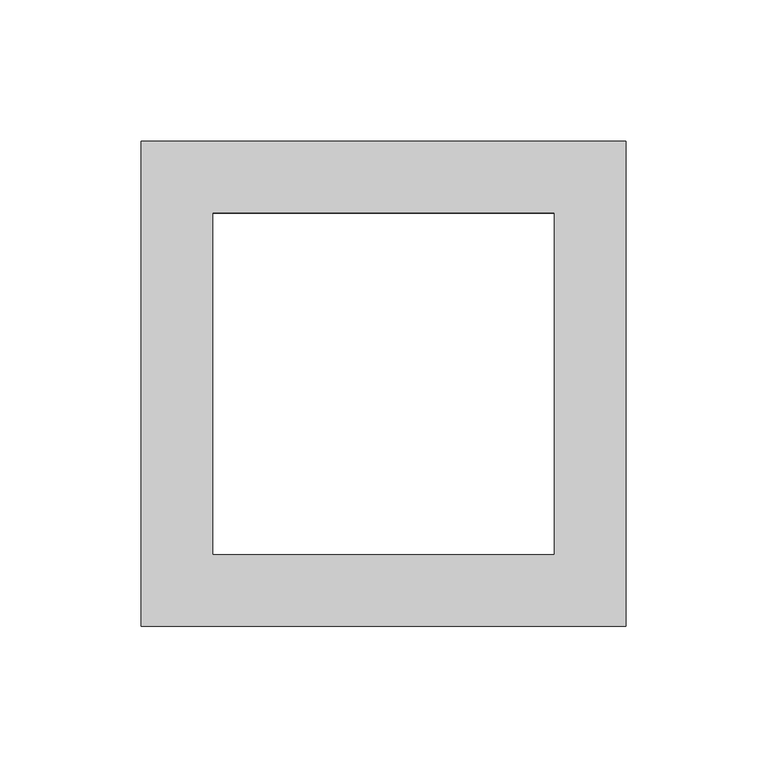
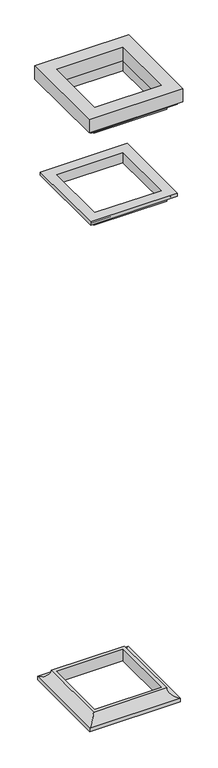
"""IFC4 building model written with IfcOpenShell, lengths in millimetres: railing geometry, Deco Type."""

from ifc_helpers import new_model, si_unit, frame, origin, place, context, project, spatial, polyline, ellipse_curve, outline, extrude, faceted_brep, source, transform, mapped, element, save
from ifc_brep_helpers import plane_surface, revolved_surface, advanced_brep


def railing_55643983(model_context):
    return source(origin(), model_context, "Body", "SolidModel", [
        extrude(outline(polyline([(-11295.3875398, -7864.1661799), (-11123.9375398, -7864.1661799), (-11123.9375398, -8035.6161799), (-11295.3875398, -8035.6161799), (-11295.3875398, -7864.1661799)]), holes=[polyline([(-11269.9875398, -8010.2161799), (-11149.3375398, -8010.2161799), (-11149.3375398, -7889.5661799), (-11269.9875398, -7889.5661799), (-11269.9875398, -8010.2161799)])]), frame((0.0, 0.0, 1260.475), z_axis=(0.0, 0.0, 1.0), x_axis=(1.0, 0.0, 0.0)), (0.0, 0.0, 1.0), 25.4),
        advanced_brep(
        [(-11269.9875398, -7889.5661799, 101.6), (-11269.9875398, -7889.5661799, 123.825), (-11269.9875398, -8010.2161799, 123.825), (-11269.9875398, -8010.2161799, 101.6), (-11292.2125398, -7867.3411799, 107.95), (-11292.2125398, -7867.3411799, 101.6), (-11292.2125398, -8032.4411799, 101.6), (-11292.2125398, -8032.4411799, 107.95), (-11276.3375398, -7883.2161799, 123.825), (-11276.3375398, -8016.5661799, 123.825), (-11149.3375398, -8010.2161799, 123.825), (-11149.3375398, -8010.2161799, 101.6), (-11127.1125398, -8032.4411799, 101.6), (-11127.1125398, -8032.4411799, 107.95), (-11142.9875398, -8016.5661799, 123.825), (-11149.3375398, -7889.5661799, 123.825), (-11149.3375398, -7889.5661799, 101.6), (-11127.1125398, -7867.3411799, 101.6), (-11127.1125398, -7867.3411799, 107.95), (-11142.9875398, -7883.2161799, 123.825)],
        [
            (0, 1),
            (1, 2),
            (2, 3),
            (3, 0),
            (4, 5),
            (5, 6),
            (6, 7),
            (7, 4),
            (8, 4, ellipse_curve(frame((-11292.2125398, -7867.3411799, 123.825), z_axis=(0.7071067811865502, 0.7071067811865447, 0.0), x_axis=(0.7071067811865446, -0.7071067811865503, 0.0)), 22.4506403, 15.875)),
            (7, 9, ellipse_curve(frame((-11292.2125398, -8032.4411799, 123.825), z_axis=(0.7071067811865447, -0.7071067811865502, 0.0), x_axis=(-0.7071067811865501, -0.7071067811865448, 0.0)), 22.4506403, 15.875)),
            (9, 8),
            (2, 10),
            (10, 11),
            (11, 3),
            (6, 12),
            (12, 13),
            (13, 7),
            (13, 14, ellipse_curve(frame((-11127.1125398, -8032.4411799, 123.825), z_axis=(0.7071067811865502, 0.7071067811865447, 0.0), x_axis=(0.7071067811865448, -0.7071067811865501, 0.0)), 22.4506403, 15.875)),
            (14, 9),
            (10, 15),
            (15, 16),
            (16, 11),
            (12, 17),
            (17, 18),
            (18, 13),
            (18, 19, ellipse_curve(frame((-11127.1125398, -7867.3411799, 123.825), z_axis=(-0.7071067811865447, 0.7071067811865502, 0.0), x_axis=(0.7071067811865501, 0.7071067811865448, 0.0)), 22.4506403, 15.875)),
            (19, 14),
            (15, 1),
            (0, 16),
            (5, 17),
            (4, 18),
            (8, 19),
        ],
        [
            plane_surface(frame((-11269.9875398, -7889.5661799, 123.825), z_axis=(1.0, 0.0, 0.0), x_axis=(0.0, -1.0, 0.0))),
            plane_surface(frame((-11292.2125398, -7867.3411799, 101.6), z_axis=(-1.0, 0.0, 0.0), x_axis=(0.0, -1.0, 0.0))),
            revolved_surface(polyline([(-11276.3375398, -8048.31617989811, 123.825), (-11276.3375398, -7851.4661799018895, 123.825)]), (-11292.2125398, -7889.5661799, 123.825), (0.0, -1.0, 0.0)),
            plane_surface(frame((-11269.9875398, -8010.2161799, 123.825), z_axis=(0.0, 1.0, 0.0), x_axis=(1.0, 0.0, 0.0))),
            plane_surface(frame((-11292.2125398, -8032.4411799, 101.6), z_axis=(0.0, -1.0, 0.0), x_axis=(1.0, 0.0, 0.0))),
            revolved_surface(polyline([(-11111.23753980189, -8016.5661799, 123.825), (-11308.08753979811, -8016.5661799, 123.825)]), (-11269.9875398, -8032.4411799, 123.825), (1.0, 0.0, 0.0)),
            plane_surface(frame((-11149.3375398, -8010.2161799, 123.825), z_axis=(-1.0, 0.0, 0.0), x_axis=(0.0, 1.0, 0.0))),
            plane_surface(frame((-11127.1125398, -8032.4411799, 101.6), z_axis=(1.0, 0.0, 0.0), x_axis=(0.0, 1.0, 0.0))),
            revolved_surface(polyline([(-11142.9875398, -7851.4661799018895, 123.825), (-11142.9875398, -8048.31617989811, 123.825)]), (-11127.1125398, -8010.2161799, 123.825), (0.0, 1.0, 0.0)),
            plane_surface(frame((-11149.3375398, -7889.5661799, 123.825), z_axis=(0.0, -1.0, 0.0), x_axis=(-1.0, 0.0, 0.0))),
            plane_surface(frame((-11149.3375398, -7889.5661799, 101.6), z_axis=(0.0, 0.0, -1.0), x_axis=(-1.0, 0.0, 0.0))),
            plane_surface(frame((-11127.1125398, -7867.3411799, 101.6), z_axis=(0.0, 1.0, 0.0), x_axis=(-1.0, 0.0, 0.0))),
            revolved_surface(polyline([(-11308.08753979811, -7883.2161799, 123.825), (-11111.23753980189, -7883.2161799, 123.825)]), (-11149.3375398, -7867.3411799, 123.825), (-1.0, 0.0, 0.0)),
            plane_surface(frame((-11142.9875398, -7883.2161799, 123.825), z_axis=(0.0, 0.0, 1.0), x_axis=(-1.0, 0.0, 0.0))),
        ],
        [
            (0, [[1, 2, 3, 4]]),
            (1, [[5, 6, 7, 8]]),
            (2, [[9, -8, 10, 11]]),
            (3, [[-3, 12, 13, 14]]),
            (4, [[-7, 15, 16, 17]]),
            (5, [[-10, -17, 18, 19]]),
            (6, [[-13, 20, 21, 22]]),
            (7, [[-16, 23, 24, 25]]),
            (8, [[-18, -25, 26, 27]]),
            (9, [[-21, 28, -1, 29]]),
            (10, [[30, -23, -15, -6], [-14, -22, -29, -4]]),
            (11, [[-24, -30, -5, 31]]),
            (12, [[-26, -31, -9, 32]]),
            (13, [[-19, -27, -32, -11], [-28, -20, -12, -2]]),
        ],
    ),
        advanced_brep(
        [(-11269.9875398, -7889.5661799, 1063.625), (-11269.9875398, -7889.5661799, 1082.675), (-11269.9875398, -8010.2161799, 1082.675), (-11269.9875398, -8010.2161799, 1063.625), (-11289.0375398, -7870.5161799, 1076.325), (-11276.3375398, -7883.2161799, 1063.625), (-11276.3375398, -8016.5661799, 1063.625), (-11289.0375398, -8029.2661799, 1076.325), (-11289.0375398, -7870.5161799, 1082.675), (-11289.0375398, -8029.2661799, 1082.675), (-11149.3375398, -8010.2161799, 1082.675), (-11149.3375398, -8010.2161799, 1063.625), (-11142.9875398, -8016.5661799, 1063.625), (-11130.2875398, -8029.2661799, 1076.325), (-11130.2875398, -8029.2661799, 1082.675), (-11149.3375398, -7889.5661799, 1082.675), (-11149.3375398, -7889.5661799, 1063.625), (-11142.9875398, -7883.2161799, 1063.625), (-11130.2875398, -7870.5161799, 1076.325), (-11130.2875398, -7870.5161799, 1082.675)],
        [
            (0, 1),
            (1, 2),
            (2, 3),
            (3, 0),
            (4, 5, ellipse_curve(frame((-11289.0375398, -7870.5161799, 1063.625), z_axis=(0.7071067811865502, 0.7071067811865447, 0.0), x_axis=(0.7071067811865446, -0.7071067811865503, 0.0)), 17.9605122, 12.7)),
            (5, 6),
            (6, 7, ellipse_curve(frame((-11289.0375398, -8029.2661799, 1063.625), z_axis=(0.7071067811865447, -0.7071067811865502, 0.0), x_axis=(-0.7071067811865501, -0.7071067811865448, 0.0)), 17.9605122, 12.7)),
            (7, 4),
            (8, 4),
            (7, 9),
            (9, 8),
            (2, 10),
            (10, 11),
            (11, 3),
            (6, 12),
            (12, 13, ellipse_curve(frame((-11130.2875398, -8029.2661799, 1063.625), z_axis=(0.7071067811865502, 0.7071067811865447, 0.0), x_axis=(0.7071067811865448, -0.7071067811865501, 0.0)), 17.9605122, 12.7)),
            (13, 7),
            (13, 14),
            (14, 9),
            (10, 15),
            (15, 16),
            (16, 11),
            (12, 17),
            (17, 18, ellipse_curve(frame((-11130.2875398, -7870.5161799, 1063.625), z_axis=(-0.7071067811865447, 0.7071067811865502, 0.0), x_axis=(0.7071067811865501, 0.7071067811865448, 0.0)), 17.9605122, 12.7)),
            (18, 13),
            (18, 19),
            (19, 14),
            (19, 8),
            (1, 15),
            (0, 16),
            (5, 17),
            (4, 18),
        ],
        [
            plane_surface(frame((-11269.9875398, -7889.5661799, 1082.675), z_axis=(1.0, 0.0, 0.0), x_axis=(0.0, -1.0, 0.0))),
            revolved_surface(polyline([(-11276.337539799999, -8041.966179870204, 1063.625), (-11276.337539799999, -7857.816179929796, 1063.625)]), (-11289.0375398, -7889.5661799, 1063.625), (0.0, -1.0, 0.0)),
            plane_surface(frame((-11289.0375398, -7870.5161799, 1076.325), z_axis=(-1.0, 0.0, 0.0), x_axis=(0.0, -1.0, 0.0))),
            plane_surface(frame((-11269.9875398, -8010.2161799, 1082.675), z_axis=(0.0, 1.0, 0.0), x_axis=(1.0, 0.0, 0.0))),
            revolved_surface(polyline([(-11117.587539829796, -8016.5661799, 1063.625), (-11301.737539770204, -8016.5661799, 1063.625)]), (-11269.9875398, -8029.2661799, 1063.625), (1.0, 0.0, 0.0)),
            plane_surface(frame((-11289.0375398, -8029.2661799, 1076.325), z_axis=(0.0, -1.0, 0.0), x_axis=(1.0, 0.0, 0.0))),
            plane_surface(frame((-11149.3375398, -8010.2161799, 1082.675), z_axis=(-1.0, 0.0, 0.0), x_axis=(0.0, 1.0, 0.0))),
            revolved_surface(polyline([(-11142.9875398, -7857.816179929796, 1063.625), (-11142.9875398, -8041.966179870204, 1063.625)]), (-11130.2875398, -8010.2161799, 1063.625), (0.0, 1.0, 0.0)),
            plane_surface(frame((-11130.2875398, -8029.2661799, 1076.325), z_axis=(1.0, 0.0, 0.0), x_axis=(0.0, 1.0, 0.0))),
            plane_surface(frame((-11130.2875398, -7870.5161799, 1082.675), z_axis=(0.0, 0.0, 1.0), x_axis=(-1.0, 0.0, 0.0))),
            plane_surface(frame((-11149.3375398, -7889.5661799, 1082.675), z_axis=(0.0, -1.0, 0.0), x_axis=(-1.0, 0.0, 0.0))),
            plane_surface(frame((-11149.3375398, -7889.5661799, 1063.625), z_axis=(0.0, 0.0, -1.0), x_axis=(-1.0, 0.0, 0.0))),
            revolved_surface(polyline([(-11301.737539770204, -7883.2161799, 1063.625), (-11117.587539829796, -7883.2161799, 1063.625)]), (-11149.3375398, -7870.5161799, 1063.625), (-1.0, 0.0, 0.0)),
            plane_surface(frame((-11130.2875398, -7870.5161799, 1076.325), z_axis=(0.0, 1.0, 0.0), x_axis=(-1.0, 0.0, 0.0))),
        ],
        [
            (0, [[1, 2, 3, 4]]),
            (1, [[5, 6, 7, 8]]),
            (2, [[9, -8, 10, 11]]),
            (3, [[-3, 12, 13, 14]]),
            (4, [[-7, 15, 16, 17]]),
            (5, [[-10, -17, 18, 19]]),
            (6, [[-13, 20, 21, 22]]),
            (7, [[-16, 23, 24, 25]]),
            (8, [[-18, -25, 26, 27]]),
            (9, [[-19, -27, 28, -11], [29, -20, -12, -2]]),
            (10, [[-21, -29, -1, 30]]),
            (11, [[31, -23, -15, -6], [-14, -22, -30, -4]]),
            (12, [[-24, -31, -5, 32]]),
            (13, [[-26, -32, -9, -28]]),
        ],
    ),
        faceted_brep([(-11269.9875398, -7889.5661799, 1241.425), (-11269.9875398, -7889.5661799, 1260.475), (-11269.9875398, -8010.2161799, 1260.475), (-11269.9875398, -8010.2161799, 1241.425), (-11276.3375398, -7883.2161799, 1254.125), (-11276.3375398, -7883.2161799, 1241.425), (-11276.3375398, -8016.5661799, 1241.425), (-11276.3375398, -8016.5661799, 1254.125), (-11289.0375398, -7870.5161799, 1260.475), (-11289.0375398, -7870.5161799, 1254.125), (-11289.0375398, -8029.2661799, 1254.125), (-11289.0375398, -8029.2661799, 1260.475), (-11149.3375398, -8010.2161799, 1260.475), (-11149.3375398, -8010.2161799, 1241.425), (-11142.9875398, -8016.5661799, 1241.425), (-11142.9875398, -8016.5661799, 1254.125), (-11130.2875398, -8029.2661799, 1254.125), (-11130.2875398, -8029.2661799, 1260.475), (-11149.3375398, -7889.5661799, 1260.475), (-11149.3375398, -7889.5661799, 1241.425), (-11142.9875398, -7883.2161799, 1241.425), (-11142.9875398, -7883.2161799, 1254.125), (-11130.2875398, -7870.5161799, 1254.125), (-11130.2875398, -7870.5161799, 1260.475)], [[[0, 1, 2, 3]], [[4, 5, 6, 7]], [[8, 9, 10, 11]], [[3, 2, 12, 13]], [[7, 6, 14, 15]], [[11, 10, 16, 17]], [[13, 12, 18, 19]], [[15, 14, 20, 21]], [[17, 16, 22, 23]], [[19, 18, 1, 0]], [[5, 20, 14, 6], [3, 13, 19, 0]], [[21, 20, 5, 4]], [[9, 22, 16, 10], [7, 15, 21, 4]], [[23, 22, 9, 8]], [[11, 17, 23, 8], [1, 18, 12, 2]]]),
    ])


if __name__ == "__main__":
    model = new_model("IFC4")
    model_context = context("Model", 3, world=origin())
    ifc_project = project(units=[si_unit("LENGTHUNIT", "METRE", prefix="MILLI")], contexts=[model_context])
    site = spatial("IfcSite", under=ifc_project)
    building = spatial("IfcBuilding", under=site)
    placement = place(None, origin())
    railing_shape = railing_55643983(model_context)
    element("IfcRailing", 1, ObjectType="Deco Type", at=placement, inside=building, context=model_context, shape_type="MappedRepresentation", body=[
        mapped(railing_shape, transform((0.0, 0.0, 0.0), x_axis=(1.0, 0.0, 0.0), y_axis=(0.0, 1.0, 0.0), z_axis=(0.0, 0.0, 1.0))),
    ])
    save(model, "model.ifc")
